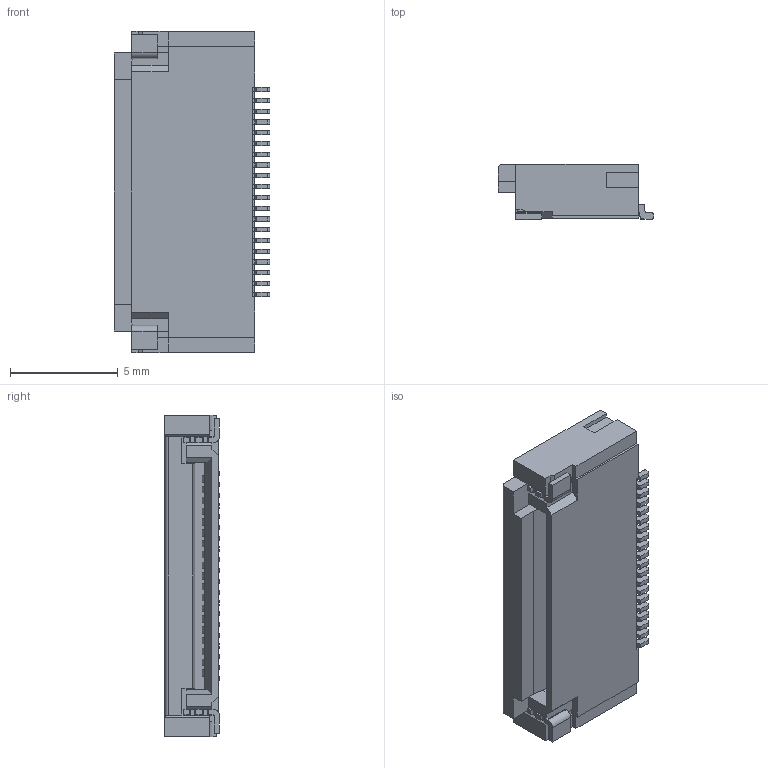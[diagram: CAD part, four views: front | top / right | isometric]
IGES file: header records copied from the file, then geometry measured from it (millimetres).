
Start section: Elysium IGES Interface
Global section: file name: 79HC:\Documents and Settings\haruki_kinouchi\デスクトップ\FH28D-20S-0.5SH_簡略.igs; native system: CoCreate Modeling 16.00B  02-Dec-2008; preprocessor: CoCreate IGES_3D V2.2; author: Unknown; organization: Unknown; date: 20100323.141835; units: millimetre
Bounding box: 7.2 x 2.55 x 14.9 mm (x, y, z)
Volume: 176.5 mm3; surface area: 492.9 mm2
Topology: 1 solids, 1 shells, 748 faces, 2226 edges, 1478 vertices
Faces by surface type: bspline 748
